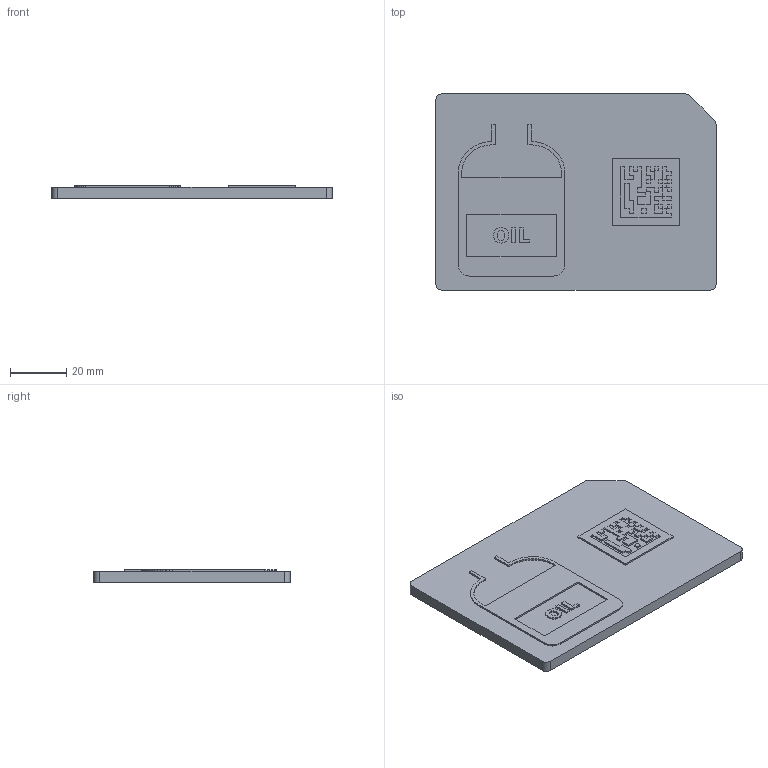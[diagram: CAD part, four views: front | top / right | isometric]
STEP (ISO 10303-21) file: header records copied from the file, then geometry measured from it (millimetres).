
FILE_DESCRIPTION(('Open CASCADE Model'),'2;1');
FILE_NAME('Open CASCADE Shape Model','2026-10-14T18:10:06',('Author'),( 'Open CASCADE'),'Open CASCADE STEP processor 7.9','Open CASCADE 7.9' ,'Unknown');
FILE_SCHEMA(('AUTOMOTIVE_DESIGN { 1 0 10303 214 1 1 1 1 }'));
Length unit declared in the file: millimetre
Products named in the file (3): SN-4842; SN-4842_base_dark; SN-4842_features_red
Assembly tree (2 placements, depth 2):
  SN-4842
    SN-4842_base_dark
    SN-4842_features_red
Bounding box: 100 x 70 x 4.6 mm (x, y, z)
Volume: 28592.4 mm3; surface area: 19522.7 mm2
Topology: 8 solids, 8 shells, 571 faces, 1602 edges, 1068 vertices
Faces by surface type: plane 566, cylinder 5
Entity records: 38462 total; most frequent: CARTESIAN_POINT 6984, DIRECTION 5438, LINE 4262, VECTOR 4262, ORIENTED_EDGE 3204, PCURVE 3204, DEFINITIONAL_REPRESENTATION 3204, EDGE_CURVE 1602
